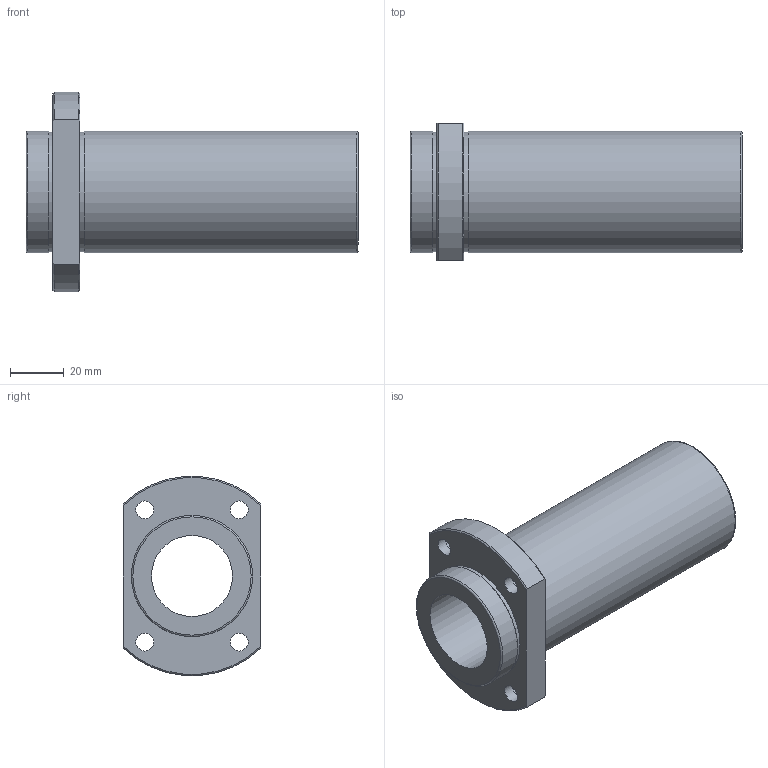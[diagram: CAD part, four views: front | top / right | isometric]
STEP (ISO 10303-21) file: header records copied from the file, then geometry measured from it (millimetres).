
FILE_DESCRIPTION(('STEP AP203'),'1');
FILE_NAME('//192.168.1.1/share/s-4 技術開発/s-4-4_CAD/s-4-4-3_見直し済み/002 修正済み/NFIO-VL/NFIO-VL_TOP/NFIO-30VLUU.step','2022-03-07T02:45:53',(' '),(' '),'Spatial InterOp 3D',' ',' ');
FILE_SCHEMA(('CONFIG_CONTROL_DESIGN'));
Length unit declared in the file: millimetre
Products named in the file (1): 1
Bounding box: 123 x 51 x 73.74 mm (x, y, z)
Volume: 124229.7 mm3; surface area: 36164.9 mm2
Topology: 1 solids, 1 shells, 33 faces, 69 edges, 46 vertices
Faces by surface type: cylinder 15, plane 12, cone 4, torus 2
Full cylindrical faces by diameter (mm): 6.6 x4, 11 x4, 30 x1, 44.4 x2, 45 x2
Entity records: 878 total; most frequent: CARTESIAN_POINT 154, DIRECTION 148, ORIENTED_EDGE 104, AXIS2_PLACEMENT_3D 70, EDGE_LOOP 66, EDGE_CURVE 52, FACE_OUTER_BOUND 48, VERTEX_POINT 44
